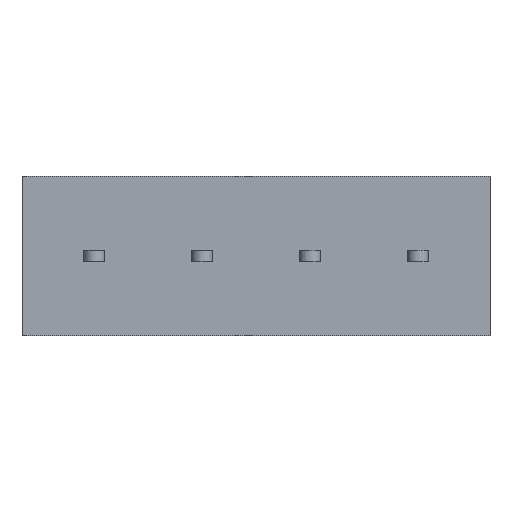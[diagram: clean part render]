
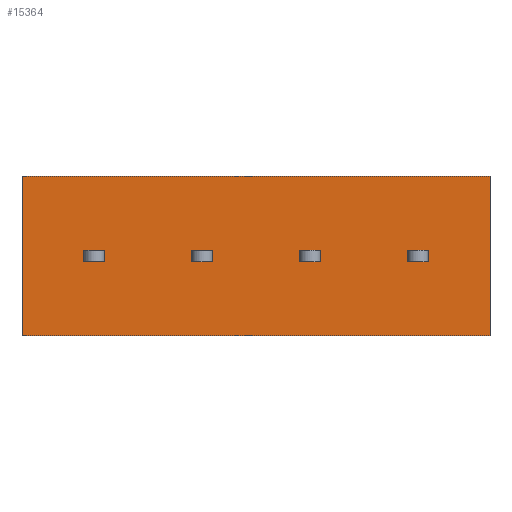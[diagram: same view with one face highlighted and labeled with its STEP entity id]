
A CAD part, front view. The second image highlights one B-rep face of the part: STEP entity #15364.
In plain terms, the highlighted planar face has unit normal (0, -1, 0).
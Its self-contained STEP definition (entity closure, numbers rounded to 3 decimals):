
#946=VERTEX_POINT('',#20365);
#947=VERTEX_POINT('',#20366);
#950=VERTEX_POINT('',#20374);
#980=VERTEX_POINT('',#20444);
#1399=VERTEX_POINT('',#21779);
#1400=VERTEX_POINT('',#21780);
#1403=VERTEX_POINT('',#21788);
#1415=VERTEX_POINT('',#21827);
#1488=VERTEX_POINT('',#22045);
#1489=VERTEX_POINT('',#22047);
#1498=VERTEX_POINT('',#22075);
#1509=VERTEX_POINT('',#22100);
#1510=VERTEX_POINT('',#22101);
#1511=VERTEX_POINT('',#22103);
#1512=VERTEX_POINT('',#22105);
#1513=VERTEX_POINT('',#22108);
#1514=VERTEX_POINT('',#22109);
#1515=VERTEX_POINT('',#22111);
#1516=VERTEX_POINT('',#22113);
#1517=VERTEX_POINT('',#22116);
#2531=VECTOR('',#17074,1.);
#2534=VECTOR('',#17080,1.);
#2564=VECTOR('',#17126,1.);
#2567=VECTOR('',#17134,1.);
#3006=VECTOR('',#18107,1.);
#3009=VECTOR('',#18113,1.);
#3025=VECTOR('',#18146,1.);
#3028=VECTOR('',#18154,1.);
#3105=VECTOR('',#18333,1.);
#3116=VECTOR('',#18357,1.);
#3129=VECTOR('',#18371,1.);
#3130=VECTOR('',#18372,1.);
#3131=VECTOR('',#18373,1.);
#3132=VECTOR('',#18374,1.);
#3133=VECTOR('',#18375,1.);
#3134=VECTOR('',#18376,1.);
#3135=VECTOR('',#18377,1.);
#3136=VECTOR('',#18378,1.);
#3137=VECTOR('',#18379,1.);
#3138=VECTOR('',#18380,1.);
#4293=LINE('',#20364,#2531);
#4296=LINE('',#20373,#2534);
#4326=LINE('',#20443,#2564);
#4329=LINE('',#20451,#2567);
#4768=LINE('',#21778,#3006);
#4771=LINE('',#21787,#3009);
#4787=LINE('',#21826,#3025);
#4790=LINE('',#21834,#3028);
#4867=LINE('',#22046,#3105);
#4878=LINE('',#22074,#3116);
#4891=LINE('',#22099,#3129);
#4892=LINE('',#22102,#3130);
#4893=LINE('',#22104,#3131);
#4894=LINE('',#22106,#3132);
#4895=LINE('',#22107,#3133);
#4896=LINE('',#22110,#3134);
#4897=LINE('',#22112,#3135);
#4898=LINE('',#22114,#3136);
#4899=LINE('',#22115,#3137);
#4900=LINE('',#22117,#3138);
#6065=EDGE_CURVE('',#946,#947,#4293,.T.);
#6069=EDGE_CURVE('',#947,#950,#4296,.T.);
#6107=EDGE_CURVE('',#950,#980,#4326,.T.);
#6111=EDGE_CURVE('',#980,#946,#4329,.T.);
#6746=EDGE_CURVE('',#1399,#1400,#4768,.T.);
#6750=EDGE_CURVE('',#1400,#1403,#4771,.T.);
#6774=EDGE_CURVE('',#1403,#1415,#4787,.T.);
#6778=EDGE_CURVE('',#1415,#1399,#4790,.T.);
#6882=EDGE_CURVE('',#1489,#1488,#4867,.T.);
#6896=EDGE_CURVE('',#1489,#1498,#4878,.T.);
#6909=EDGE_CURVE('',#1509,#1510,#4891,.T.);
#6910=EDGE_CURVE('',#1511,#1509,#4892,.T.);
#6911=EDGE_CURVE('',#1512,#1511,#4893,.T.);
#6912=EDGE_CURVE('',#1510,#1512,#4894,.T.);
#6913=EDGE_CURVE('',#1513,#1514,#4895,.T.);
#6914=EDGE_CURVE('',#1515,#1513,#4896,.T.);
#6915=EDGE_CURVE('',#1516,#1515,#4897,.T.);
#6916=EDGE_CURVE('',#1514,#1516,#4898,.T.);
#6917=EDGE_CURVE('',#1488,#1517,#4899,.T.);
#6918=EDGE_CURVE('',#1517,#1498,#4900,.T.);
#10091=ORIENTED_EDGE('',*,*,#6909,.F.);
#10092=ORIENTED_EDGE('',*,*,#6910,.F.);
#10093=ORIENTED_EDGE('',*,*,#6911,.F.);
#10094=ORIENTED_EDGE('',*,*,#6912,.F.);
#10095=ORIENTED_EDGE('',*,*,#6107,.F.);
#10096=ORIENTED_EDGE('',*,*,#6069,.F.);
#10097=ORIENTED_EDGE('',*,*,#6065,.F.);
#10098=ORIENTED_EDGE('',*,*,#6111,.F.);
#10099=ORIENTED_EDGE('',*,*,#6774,.F.);
#10100=ORIENTED_EDGE('',*,*,#6750,.F.);
#10101=ORIENTED_EDGE('',*,*,#6746,.F.);
#10102=ORIENTED_EDGE('',*,*,#6778,.F.);
#10103=ORIENTED_EDGE('',*,*,#6913,.F.);
#10104=ORIENTED_EDGE('',*,*,#6914,.F.);
#10105=ORIENTED_EDGE('',*,*,#6915,.F.);
#10106=ORIENTED_EDGE('',*,*,#6916,.F.);
#10107=ORIENTED_EDGE('',*,*,#6917,.T.);
#10108=ORIENTED_EDGE('',*,*,#6918,.T.);
#10109=ORIENTED_EDGE('',*,*,#6896,.F.);
#10110=ORIENTED_EDGE('',*,*,#6882,.T.);
#13485=EDGE_LOOP('',(#10091,#10092,#10093,#10094));
#13486=EDGE_LOOP('',(#10095,#10096,#10097,#10098));
#13487=EDGE_LOOP('',(#10099,#10100,#10101,#10102));
#13488=EDGE_LOOP('',(#10103,#10104,#10105,#10106));
#13489=EDGE_LOOP('',(#10107,#10108,#10109,#10110));
#14437=FACE_BOUND('',#13485,.T.);
#14438=FACE_BOUND('',#13486,.T.);
#14439=FACE_BOUND('',#13487,.T.);
#14440=FACE_BOUND('',#13488,.T.);
#14441=FACE_BOUND('',#13489,.T.);
#15364=ADVANCED_FACE('',(#14437,#14438,#14439,#14440,#14441),#26286,.T.);
#16418=AXIS2_PLACEMENT_3D('',#22098,#18370,$);
#17074=DIRECTION('',(1.,0.,0.));
#17080=DIRECTION('',(0.,0.,1.));
#17126=DIRECTION('',(-1.,0.,0.));
#17134=DIRECTION('',(0.,0.,-1.));
#18107=DIRECTION('',(1.,0.,0.));
#18113=DIRECTION('',(0.,0.,1.));
#18146=DIRECTION('',(-1.,0.,0.));
#18154=DIRECTION('',(0.,0.,-1.));
#18333=DIRECTION('',(0.,0.,-1.));
#18357=DIRECTION('',(1.,0.,0.));
#18370=DIRECTION('',(0.,-1.,0.));
#18371=DIRECTION('',(-1.,0.,0.));
#18372=DIRECTION('',(0.,0.,1.));
#18373=DIRECTION('',(1.,0.,0.));
#18374=DIRECTION('',(0.,0.,-1.));
#18375=DIRECTION('',(-1.,0.,0.));
#18376=DIRECTION('',(0.,0.,1.));
#18377=DIRECTION('',(1.,0.,0.));
#18378=DIRECTION('',(0.,0.,-1.));
#18379=DIRECTION('',(1.,0.,0.));
#18380=DIRECTION('',(0.,0.,1.));
#20364=CARTESIAN_POINT('',(23.325,0.,-0.5));
#20365=CARTESIAN_POINT('',(24.45,0.,-0.5));
#20366=CARTESIAN_POINT('',(26.25,0.,-0.5));
#20373=CARTESIAN_POINT('',(26.25,0.,1.75));
#20374=CARTESIAN_POINT('',(26.25,0.,0.5));
#20443=CARTESIAN_POINT('',(23.325,0.,0.5));
#20444=CARTESIAN_POINT('',(24.45,0.,0.5));
#20451=CARTESIAN_POINT('',(24.45,0.,1.75));
#21778=CARTESIAN_POINT('',(13.825,0.,-0.5));
#21779=CARTESIAN_POINT('',(14.95,0.,-0.5));
#21780=CARTESIAN_POINT('',(16.75,0.,-0.5));
#21787=CARTESIAN_POINT('',(16.75,0.,1.75));
#21788=CARTESIAN_POINT('',(16.75,0.,0.5));
#21826=CARTESIAN_POINT('',(13.825,0.,0.5));
#21827=CARTESIAN_POINT('',(14.95,0.,0.5));
#21834=CARTESIAN_POINT('',(14.95,0.,1.75));
#22045=CARTESIAN_POINT('',(0.,0.,-7.));
#22046=CARTESIAN_POINT('',(0.,0.,7.));
#22047=CARTESIAN_POINT('',(0.,0.,7.));
#22074=CARTESIAN_POINT('',(0.,0.,7.));
#22075=CARTESIAN_POINT('',(41.2,0.,7.));
#22098=CARTESIAN_POINT('',(0.,0.,0.));
#22099=CARTESIAN_POINT('',(32.825,0.,0.5));
#22100=CARTESIAN_POINT('',(35.75,0.,0.5));
#22101=CARTESIAN_POINT('',(33.95,0.,0.5));
#22102=CARTESIAN_POINT('',(35.75,0.,1.75));
#22103=CARTESIAN_POINT('',(35.75,0.,-0.5));
#22104=CARTESIAN_POINT('',(32.825,0.,-0.5));
#22105=CARTESIAN_POINT('',(33.95,0.,-0.5));
#22106=CARTESIAN_POINT('',(33.95,0.,1.75));
#22107=CARTESIAN_POINT('',(4.325,0.,0.5));
#22108=CARTESIAN_POINT('',(7.25,0.,0.5));
#22109=CARTESIAN_POINT('',(5.45,0.,0.5));
#22110=CARTESIAN_POINT('',(7.25,0.,1.75));
#22111=CARTESIAN_POINT('',(7.25,0.,-0.5));
#22112=CARTESIAN_POINT('',(4.325,0.,-0.5));
#22113=CARTESIAN_POINT('',(5.45,0.,-0.5));
#22114=CARTESIAN_POINT('',(5.45,0.,1.75));
#22115=CARTESIAN_POINT('',(0.,0.,-7.));
#22116=CARTESIAN_POINT('',(41.2,0.,-7.));
#22117=CARTESIAN_POINT('',(41.2,0.,7.));
#26286=PLANE('',#16418);
